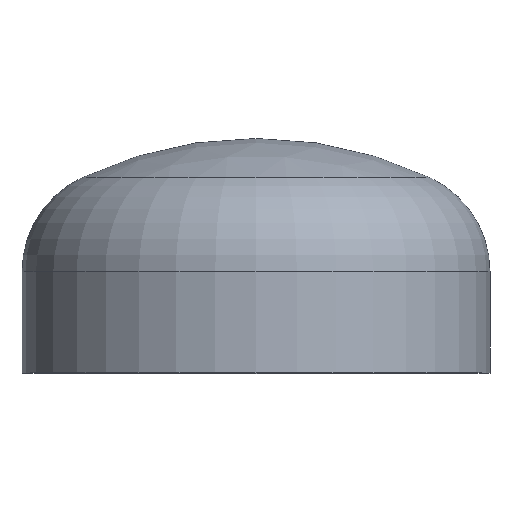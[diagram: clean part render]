
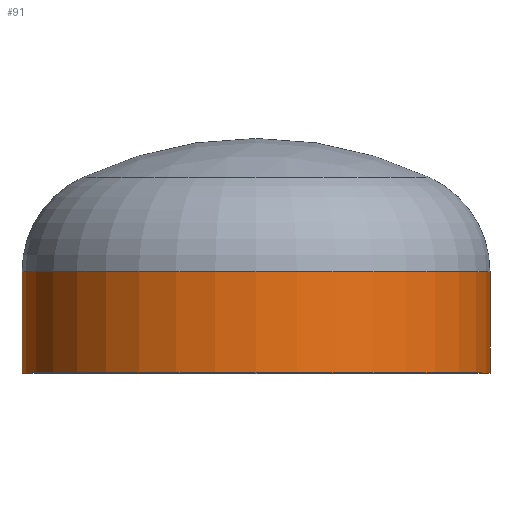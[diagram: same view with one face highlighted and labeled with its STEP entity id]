
A CAD part, top view. The second image highlights one B-rep face of the part: STEP entity #91.
In plain terms, the highlighted cylindrical face has radius 300 mm (diameter 600 mm), a partial arc.
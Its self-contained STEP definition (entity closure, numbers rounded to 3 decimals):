
#23 = AXIS2_PLACEMENT_3D ( 'NONE', #398, #395, #156 ) ;
#24 = DIRECTION ( 'NONE',  ( 1., 0., 0. ) ) ;
#29 = VERTEX_POINT ( 'NONE', #290 ) ;
#33 = EDGE_LOOP ( 'NONE', ( #223, #226, #190, #151 ) ) ;
#48 = AXIS2_PLACEMENT_3D ( 'NONE', #160, #157, #24 ) ;
#53 = AXIS2_PLACEMENT_3D ( 'NONE', #322, #360, #208 ) ;
#73 = EDGE_CURVE ( 'NONE', #134, #170, #222, .T. ) ;
#80 = EDGE_CURVE ( 'NONE', #29, #142, #302, .T. ) ;
#91 = ADVANCED_FACE ( 'NONE', ( #239 ), #287, .T. ) ;
#134 = VERTEX_POINT ( 'NONE', #310 ) ;
#142 = VERTEX_POINT ( 'NONE', #188 ) ;
#151 = ORIENTED_EDGE ( 'NONE', *, *, #73, .F. ) ;
#156 = DIRECTION ( 'NONE',  ( 1., 0., 0. ) ) ;
#157 = DIRECTION ( 'NONE',  ( 0., -1., 0. ) ) ;
#159 = VECTOR ( 'NONE', #351, 1000. ) ;
#160 = CARTESIAN_POINT ( 'NONE',  ( 0., 0., 0. ) ) ;
#170 = VERTEX_POINT ( 'NONE', #305 ) ;
#188 = CARTESIAN_POINT ( 'NONE',  ( -300., 0., 0. ) ) ;
#190 = ORIENTED_EDGE ( 'NONE', *, *, #293, .F. ) ;
#208 = DIRECTION ( 'NONE',  ( 1., 0., 0. ) ) ;
#222 = LINE ( 'NONE', #247, #378 ) ;
#223 = ORIENTED_EDGE ( 'NONE', *, *, #304, .T. ) ;
#226 = ORIENTED_EDGE ( 'NONE', *, *, #80, .T. ) ;
#239 = FACE_OUTER_BOUND ( 'NONE', #33, .T. ) ;
#247 = CARTESIAN_POINT ( 'NONE',  ( 300., 0., 0. ) ) ;
#287 = CYLINDRICAL_SURFACE ( 'NONE', #53, 300. ) ;
#290 = CARTESIAN_POINT ( 'NONE',  ( -300., 130., 0. ) ) ;
#293 = EDGE_CURVE ( 'NONE', #170, #142, #346, .T. ) ;
#302 = LINE ( 'NONE', #353, #159 ) ;
#304 = EDGE_CURVE ( 'NONE', #134, #29, #397, .T. ) ;
#305 = CARTESIAN_POINT ( 'NONE',  ( 300., 0., 0. ) ) ;
#310 = CARTESIAN_POINT ( 'NONE',  ( 300., 130., 0. ) ) ;
#322 = CARTESIAN_POINT ( 'NONE',  ( 0., 0., 0. ) ) ;
#346 = CIRCLE ( 'NONE', #48, 300. ) ;
#351 = DIRECTION ( 'NONE',  ( 0., -1., 0. ) ) ;
#353 = CARTESIAN_POINT ( 'NONE',  ( -300., 0., 0. ) ) ;
#360 = DIRECTION ( 'NONE',  ( 0., -1., 0. ) ) ;
#375 = DIRECTION ( 'NONE',  ( 0., -1., 0. ) ) ;
#378 = VECTOR ( 'NONE', #375, 1000. ) ;
#395 = DIRECTION ( 'NONE',  ( 0., -1., 0. ) ) ;
#397 = CIRCLE ( 'NONE', #23, 300. ) ;
#398 = CARTESIAN_POINT ( 'NONE',  ( 0., 130., 0. ) ) ;
